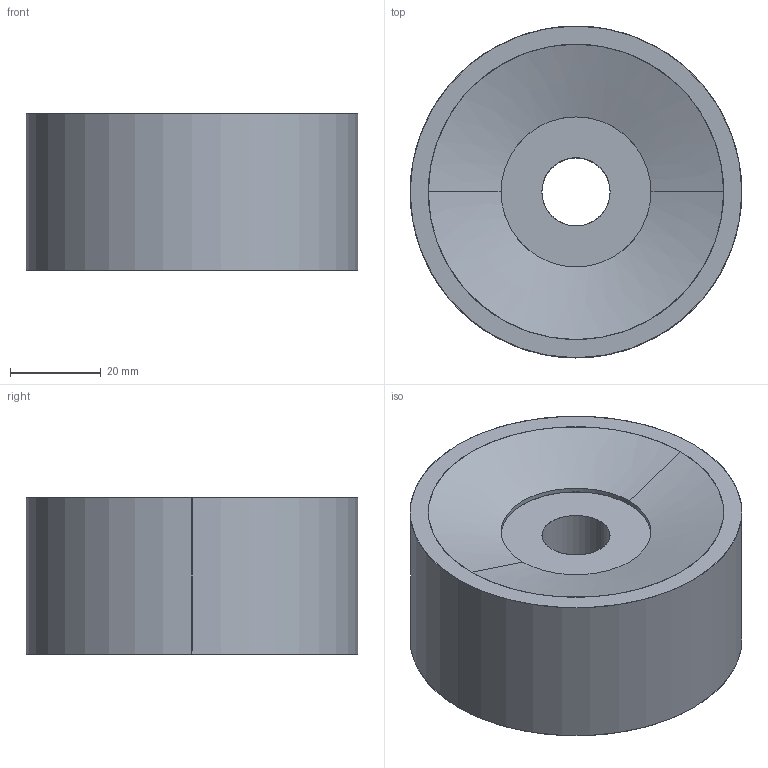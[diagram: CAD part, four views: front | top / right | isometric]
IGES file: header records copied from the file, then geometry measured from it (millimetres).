
Start section: SolidWorks IGES file using analytic representation for surfaces
Global section: file name: X:\11_SW2020-Inv2020\00_全2021-11新製品まで\n\NIP3075\nip3075.IGS; native system: SolidWorks 2020; preprocessor: SolidWorks 2020; author: ImaoCorp; date: 211026.131143; units: millimetre
Bounding box: 73 x 73 x 34.5 mm (x, y, z)
Surface area: 17431.9 mm2 (no closed solid volume)
Topology: 0 solids, 0 shells, 16 faces, 496 edges, 496 vertices
Faces by surface type: revolution 12, bspline 4
